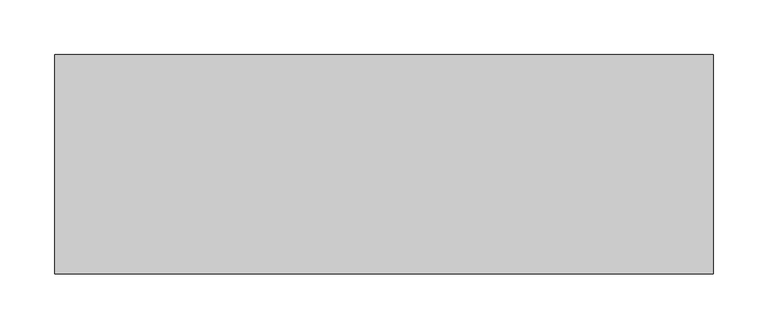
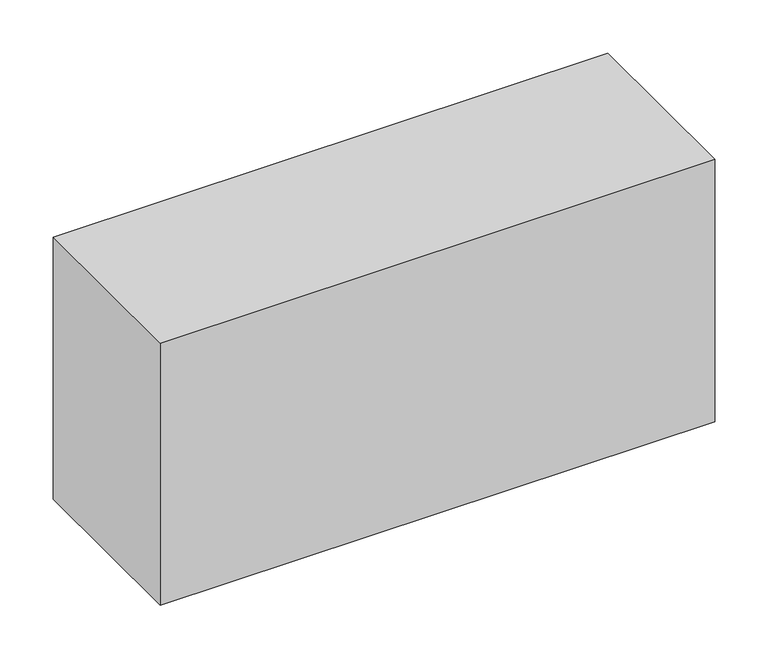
"""IFC4 building model written with IfcOpenShell, lengths in millimetres: proxy geometry, Módulo de Vedação de Concreto Celular - Celucon : MVCC 20x30x60cm (L x A x C)."""

from ifc_helpers import new_model, si_unit, origin, origin_with_axes, place, context, project, spatial, polyline, outline, extrude, source, transform, mapped, element, save


def generic_models_4d4a063c(model_context):
    return source(origin(), model_context, "Body", "SweptSolid", [
        extrude(outline(polyline([(300.0, 100.0), (300.0, -100.0), (-300.0, -100.0), (-300.0, 100.0), (300.0, 100.0)])), origin_with_axes(), (0.0, 0.0, 1.0), 300.0),
    ])


if __name__ == "__main__":
    model = new_model("IFC4")
    model_context = context("Model", 3, world=origin())
    ifc_project = project(units=[si_unit("LENGTHUNIT", "METRE", prefix="MILLI")], contexts=[model_context])
    site = spatial("IfcSite", under=ifc_project)
    building = spatial("IfcBuilding", under=site)
    placement = place(None, origin())
    generic_models_shape = generic_models_4d4a063c(model_context)
    element("IfcBuildingElementProxy", 1, Name="Módulo de Vedação de Concreto Celular - Celucon : MVCC 20x30x60cm (L x A x C)", ObjectType="Módulo de Vedação de Concreto Celular - Celucon : MVCC 20x30x60cm (L x A x C)", at=placement, inside=building, context=model_context, shape_type="MappedRepresentation", body=[
        mapped(generic_models_shape, transform((0.0, 0.0, 0.0), x_axis=(1.0, 0.0, 0.0), y_axis=(0.0, 1.0, 0.0), z_axis=(0.0, 0.0, 1.0))),
    ])
    save(model, "model.ifc")
